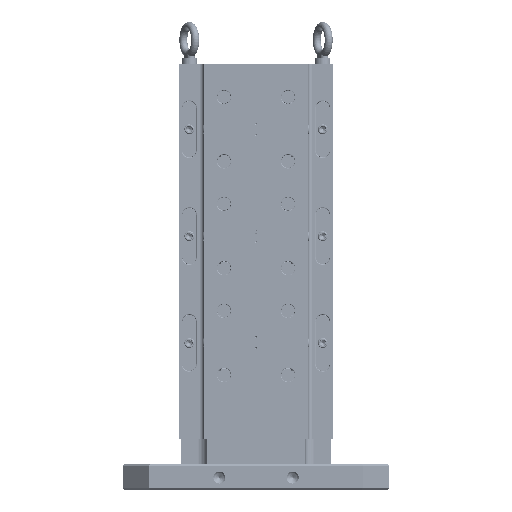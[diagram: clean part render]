
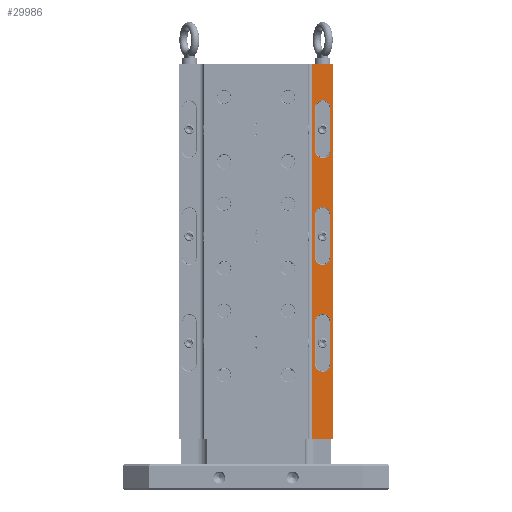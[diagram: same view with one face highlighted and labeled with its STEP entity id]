
A CAD part, top view. The second image highlights one B-rep face of the part: STEP entity #29986.
In plain terms, the highlighted planar face has unit normal (0, 0, 1).
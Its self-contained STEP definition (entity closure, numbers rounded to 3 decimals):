
#568 = CARTESIAN_POINT ( 'NONE',  ( 100., 310.023, 78. ) ) ;
#671 = ORIENTED_EDGE ( 'NONE', *, *, #13456, .T. ) ;
#1230 = CARTESIAN_POINT ( 'NONE',  ( 84.35, 600., 78. ) ) ;
#1401 = DIRECTION ( 'NONE',  ( -1., 0., 0. ) ) ;
#1581 = AXIS2_PLACEMENT_3D ( 'NONE', #44765, #26605, #3703 ) ;
#1767 = ORIENTED_EDGE ( 'NONE', *, *, #2404, .T. ) ;
#1839 = CARTESIAN_POINT ( 'NONE',  ( 84.35, 600., 78. ) ) ;
#2143 = LINE ( 'NONE', #8696, #22954 ) ;
#2238 = VERTEX_POINT ( 'NONE', #22327 ) ;
#2404 = EDGE_CURVE ( 'NONE', #7809, #33797, #26109, .T. ) ;
#2495 = CARTESIAN_POINT ( 'NONE',  ( 88.481, 150.023, 78. ) ) ;
#2729 = CARTESIAN_POINT ( 'NONE',  ( 111.519, 150.023, 78. ) ) ;
#3334 = ORIENTED_EDGE ( 'NONE', *, *, #4498, .T. ) ;
#3444 = CARTESIAN_POINT ( 'NONE',  ( 115., 600., 78. ) ) ;
#3703 = DIRECTION ( 'NONE',  ( -1., 0., 0. ) ) ;
#4498 = EDGE_CURVE ( 'NONE', #32498, #39880, #26451, .T. ) ;
#4861 = ORIENTED_EDGE ( 'NONE', *, *, #20125, .T. ) ;
#4971 = ORIENTED_EDGE ( 'NONE', *, *, #36483, .F. ) ;
#5400 = CARTESIAN_POINT ( 'NONE',  ( 88.481, 310.023, 78. ) ) ;
#5452 = FACE_BOUND ( 'NONE', #44900, .T. ) ;
#5685 = FACE_OUTER_BOUND ( 'NONE', #42442, .T. ) ;
#5796 = DIRECTION ( 'NONE',  ( 0., -1., 0. ) ) ;
#6331 = AXIS2_PLACEMENT_3D ( 'NONE', #16526, #31299, #12907 ) ;
#6752 = ORIENTED_EDGE ( 'NONE', *, *, #23255, .T. ) ;
#7058 = AXIS2_PLACEMENT_3D ( 'NONE', #18446, #44294, #29805 ) ;
#7102 = CARTESIAN_POINT ( 'NONE',  ( 88.481, 213.777, 78. ) ) ;
#7392 = ORIENTED_EDGE ( 'NONE', *, *, #18483, .T. ) ;
#7413 = CARTESIAN_POINT ( 'NONE',  ( 100., 373.777, 78. ) ) ;
#7809 = VERTEX_POINT ( 'NONE', #10576 ) ;
#8348 = AXIS2_PLACEMENT_3D ( 'NONE', #568, #15318, #45022 ) ;
#8426 = LINE ( 'NONE', #26045, #36960 ) ;
#8617 = CARTESIAN_POINT ( 'NONE',  ( 88.481, 533.777, 78. ) ) ;
#8696 = CARTESIAN_POINT ( 'NONE',  ( 111.519, 310.023, 78. ) ) ;
#9278 = EDGE_LOOP ( 'NONE', ( #45430, #7392, #3334, #12178 ) ) ;
#9347 = DIRECTION ( 'NONE',  ( -1., 0., 0. ) ) ;
#9718 = AXIS2_PLACEMENT_3D ( 'NONE', #24527, #16348, #42184 ) ;
#10076 = CARTESIAN_POINT ( 'NONE',  ( 84.35, 38.1, 78. ) ) ;
#10082 = CARTESIAN_POINT ( 'NONE',  ( 84.35, 38.1, 78. ) ) ;
#10494 = VERTEX_POINT ( 'NONE', #30200 ) ;
#10576 = CARTESIAN_POINT ( 'NONE',  ( 111.519, 213.777, 78. ) ) ;
#10719 = ORIENTED_EDGE ( 'NONE', *, *, #29020, .F. ) ;
#10859 = CARTESIAN_POINT ( 'NONE',  ( 88.481, 533.777, 78. ) ) ;
#11314 = DIRECTION ( 'NONE',  ( 0., 1., 0. ) ) ;
#12094 = VECTOR ( 'NONE', #19740, 1000. ) ;
#12178 = ORIENTED_EDGE ( 'NONE', *, *, #39190, .T. ) ;
#12512 = EDGE_CURVE ( 'NONE', #2238, #42259, #43942, .T. ) ;
#12907 = DIRECTION ( 'NONE',  ( -1., 0., 0. ) ) ;
#12984 = CIRCLE ( 'NONE', #8348, 11.519 ) ;
#13456 = EDGE_CURVE ( 'NONE', #27627, #7809, #47130, .T. ) ;
#13496 = EDGE_CURVE ( 'NONE', #33797, #33721, #46370, .T. ) ;
#13968 = VECTOR ( 'NONE', #17035, 1000. ) ;
#14367 = EDGE_LOOP ( 'NONE', ( #42270, #43632, #671, #1767 ) ) ;
#15318 = DIRECTION ( 'NONE',  ( 0., 0., -1. ) ) ;
#16120 = LINE ( 'NONE', #38977, #13968 ) ;
#16348 = DIRECTION ( 'NONE',  ( 0., 0., -1. ) ) ;
#16526 = CARTESIAN_POINT ( 'NONE',  ( 84.35, 0., 78. ) ) ;
#17035 = DIRECTION ( 'NONE',  ( 0., 1., 0. ) ) ;
#17497 = EDGE_CURVE ( 'NONE', #34538, #2238, #22781, .T. ) ;
#17823 = LINE ( 'NONE', #25014, #46744 ) ;
#18229 = VERTEX_POINT ( 'NONE', #1230 ) ;
#18446 = CARTESIAN_POINT ( 'NONE',  ( 100., 150.023, 78. ) ) ;
#18483 = EDGE_CURVE ( 'NONE', #24170, #32498, #26984, .T. ) ;
#19058 = EDGE_CURVE ( 'NONE', #26113, #18229, #28194, .T. ) ;
#19740 = DIRECTION ( 'NONE',  ( 0., 1., 0. ) ) ;
#20125 = EDGE_CURVE ( 'NONE', #33696, #26113, #17823, .T. ) ;
#21924 = LINE ( 'NONE', #22161, #29475 ) ;
#22120 = DIRECTION ( 'NONE',  ( -1., 0., 0. ) ) ;
#22161 = CARTESIAN_POINT ( 'NONE',  ( 88.481, 213.777, 78. ) ) ;
#22327 = CARTESIAN_POINT ( 'NONE',  ( 88.481, 470.023, 78. ) ) ;
#22343 = EDGE_CURVE ( 'NONE', #37636, #24170, #12984, .T. ) ;
#22781 = CIRCLE ( 'NONE', #9718, 11.519 ) ;
#22954 = VECTOR ( 'NONE', #5796, 1000. ) ;
#23255 = EDGE_CURVE ( 'NONE', #10494, #34538, #8426, .T. ) ;
#23577 = DIRECTION ( 'NONE',  ( -1., 0., 0. ) ) ;
#24170 = VERTEX_POINT ( 'NONE', #5400 ) ;
#24527 = CARTESIAN_POINT ( 'NONE',  ( 100., 470.023, 78. ) ) ;
#24761 = DIRECTION ( 'NONE',  ( 0., 0., -1. ) ) ;
#25014 = CARTESIAN_POINT ( 'NONE',  ( 115., 0., 78. ) ) ;
#25072 = VECTOR ( 'NONE', #9347, 1000. ) ;
#26028 = EDGE_CURVE ( 'NONE', #42259, #10494, #41498, .T. ) ;
#26045 = CARTESIAN_POINT ( 'NONE',  ( 111.519, 470.023, 78. ) ) ;
#26109 = LINE ( 'NONE', #29068, #26389 ) ;
#26113 = VERTEX_POINT ( 'NONE', #3444 ) ;
#26389 = VECTOR ( 'NONE', #29775, 1000. ) ;
#26451 = CIRCLE ( 'NONE', #28031, 11.519 ) ;
#26605 = DIRECTION ( 'NONE',  ( 0., 0., -1. ) ) ;
#26777 = VECTOR ( 'NONE', #23577, 1000. ) ;
#26823 = AXIS2_PLACEMENT_3D ( 'NONE', #41758, #38113, #1401 ) ;
#26984 = LINE ( 'NONE', #44018, #12094 ) ;
#27627 = VERTEX_POINT ( 'NONE', #7102 ) ;
#27793 = ORIENTED_EDGE ( 'NONE', *, *, #19058, .T. ) ;
#28031 = AXIS2_PLACEMENT_3D ( 'NONE', #7413, #24761, #22120 ) ;
#28194 = LINE ( 'NONE', #1839, #26777 ) ;
#28348 = CARTESIAN_POINT ( 'NONE',  ( 115., 38.1, 78. ) ) ;
#28706 = DIRECTION ( 'NONE',  ( 0., 1., 0. ) ) ;
#29020 = EDGE_CURVE ( 'NONE', #33257, #18229, #16120, .T. ) ;
#29068 = CARTESIAN_POINT ( 'NONE',  ( 111.519, 150.023, 78. ) ) ;
#29470 = CARTESIAN_POINT ( 'NONE',  ( 111.519, 470.023, 78. ) ) ;
#29475 = VECTOR ( 'NONE', #33292, 1000. ) ;
#29775 = DIRECTION ( 'NONE',  ( 0., -1., 0. ) ) ;
#29805 = DIRECTION ( 'NONE',  ( -1., 0., 0. ) ) ;
#29986 = ADVANCED_FACE ( 'NONE', ( #46006, #38513, #5452, #5685 ), #35136, .F. ) ;
#30200 = CARTESIAN_POINT ( 'NONE',  ( 111.519, 533.777, 78. ) ) ;
#31299 = DIRECTION ( 'NONE',  ( 0., 0., -1. ) ) ;
#32498 = VERTEX_POINT ( 'NONE', #36540 ) ;
#33257 = VERTEX_POINT ( 'NONE', #10076 ) ;
#33292 = DIRECTION ( 'NONE',  ( 0., 1., 0. ) ) ;
#33696 = VERTEX_POINT ( 'NONE', #28348 ) ;
#33721 = VERTEX_POINT ( 'NONE', #2495 ) ;
#33797 = VERTEX_POINT ( 'NONE', #2729 ) ;
#34538 = VERTEX_POINT ( 'NONE', #29470 ) ;
#34852 = ORIENTED_EDGE ( 'NONE', *, *, #12512, .T. ) ;
#35136 = PLANE ( 'NONE',  #6331 ) ;
#35356 = CARTESIAN_POINT ( 'NONE',  ( 111.519, 310.023, 78. ) ) ;
#36483 = EDGE_CURVE ( 'NONE', #33696, #33257, #43152, .T. ) ;
#36540 = CARTESIAN_POINT ( 'NONE',  ( 88.481, 373.777, 78. ) ) ;
#36960 = VECTOR ( 'NONE', #37878, 1000. ) ;
#37636 = VERTEX_POINT ( 'NONE', #35356 ) ;
#37878 = DIRECTION ( 'NONE',  ( 0., -1., 0. ) ) ;
#38113 = DIRECTION ( 'NONE',  ( 0., 0., -1. ) ) ;
#38513 = FACE_BOUND ( 'NONE', #9278, .T. ) ;
#38977 = CARTESIAN_POINT ( 'NONE',  ( 84.35, 0., 78. ) ) ;
#39178 = ORIENTED_EDGE ( 'NONE', *, *, #17497, .T. ) ;
#39190 = EDGE_CURVE ( 'NONE', #39880, #37636, #2143, .T. ) ;
#39880 = VERTEX_POINT ( 'NONE', #45230 ) ;
#40871 = VECTOR ( 'NONE', #11314, 1000. ) ;
#41498 = CIRCLE ( 'NONE', #26823, 11.519 ) ;
#41758 = CARTESIAN_POINT ( 'NONE',  ( 100., 533.777, 78. ) ) ;
#42184 = DIRECTION ( 'NONE',  ( -1., 0., 0. ) ) ;
#42259 = VERTEX_POINT ( 'NONE', #8617 ) ;
#42270 = ORIENTED_EDGE ( 'NONE', *, *, #13496, .T. ) ;
#42442 = EDGE_LOOP ( 'NONE', ( #4971, #4861, #27793, #10719 ) ) ;
#43152 = LINE ( 'NONE', #10082, #25072 ) ;
#43632 = ORIENTED_EDGE ( 'NONE', *, *, #46887, .T. ) ;
#43942 = LINE ( 'NONE', #10859, #40871 ) ;
#44018 = CARTESIAN_POINT ( 'NONE',  ( 88.481, 373.777, 78. ) ) ;
#44294 = DIRECTION ( 'NONE',  ( 0., 0., -1. ) ) ;
#44765 = CARTESIAN_POINT ( 'NONE',  ( 100., 213.777, 78. ) ) ;
#44900 = EDGE_LOOP ( 'NONE', ( #47397, #6752, #39178, #34852 ) ) ;
#45022 = DIRECTION ( 'NONE',  ( -1., 0., 0. ) ) ;
#45230 = CARTESIAN_POINT ( 'NONE',  ( 111.519, 373.777, 78. ) ) ;
#45430 = ORIENTED_EDGE ( 'NONE', *, *, #22343, .T. ) ;
#46006 = FACE_BOUND ( 'NONE', #14367, .T. ) ;
#46370 = CIRCLE ( 'NONE', #7058, 11.519 ) ;
#46744 = VECTOR ( 'NONE', #28706, 1000. ) ;
#46887 = EDGE_CURVE ( 'NONE', #33721, #27627, #21924, .T. ) ;
#47130 = CIRCLE ( 'NONE', #1581, 11.519 ) ;
#47397 = ORIENTED_EDGE ( 'NONE', *, *, #26028, .T. ) ;
